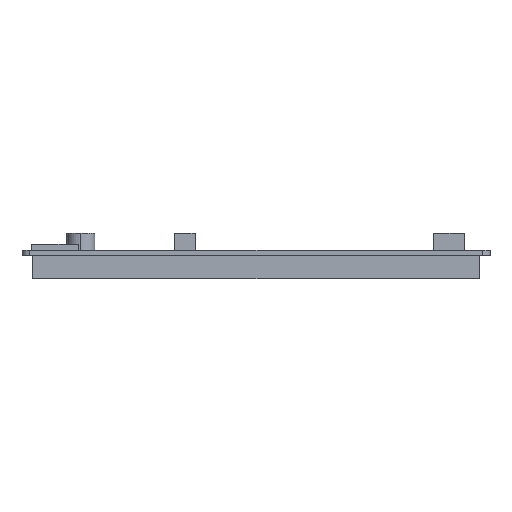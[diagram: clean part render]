
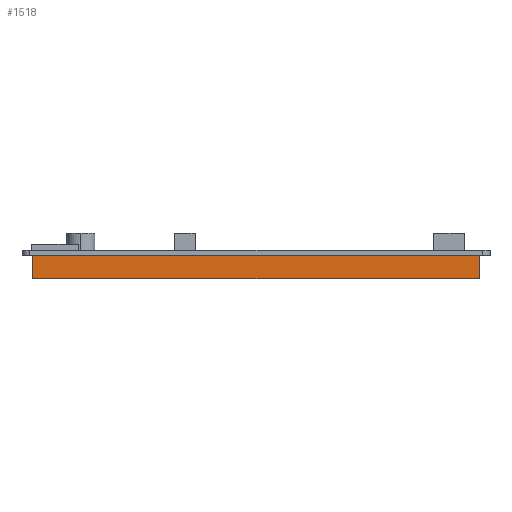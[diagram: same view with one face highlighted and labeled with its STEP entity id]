
A CAD part, left-side view. The second image highlights one B-rep face of the part: STEP entity #1518.
In plain terms, the highlighted planar face has unit normal (-1, 0, 0).
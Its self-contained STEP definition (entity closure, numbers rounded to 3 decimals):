
#321=DIRECTION('',(0.,1.,0.));
#322=VECTOR('',#321,67.089);
#323=CARTESIAN_POINT('',(-92.056,-71.,-1.6));
#324=LINE('',#323,#322);
#339=DIRECTION('',(0.,1.,0.));
#340=VECTOR('',#339,67.343);
#341=CARTESIAN_POINT('',(-92.056,3.657,-1.6));
#342=LINE('',#341,#340);
#479=DIRECTION('',(0.,0.,-1.));
#480=VECTOR('',#479,7.5);
#481=CARTESIAN_POINT('',(-92.056,-71.,-1.6));
#482=LINE('',#481,#480);
#491=DIRECTION('',(0.,0.,-1.));
#492=VECTOR('',#491,7.5);
#493=CARTESIAN_POINT('',(-92.056,71.,-1.6));
#494=LINE('',#493,#492);
#495=DIRECTION('',(0.,1.,0.));
#496=VECTOR('',#495,142.);
#497=CARTESIAN_POINT('',(-92.056,-71.,-9.1));
#498=LINE('',#497,#496);
#563=DIRECTION('',(0.,1.,0.));
#564=VECTOR('',#563,7.568);
#565=CARTESIAN_POINT('',(-92.056,-3.911,-1.6));
#566=LINE('',#565,#564);
#1003=CARTESIAN_POINT('',(-92.056,-71.,-9.1));
#1004=CARTESIAN_POINT('',(-92.056,71.,-9.1));
#1005=VERTEX_POINT('',#1003);
#1006=VERTEX_POINT('',#1004);
#1011=CARTESIAN_POINT('',(-92.056,-71.,-1.6));
#1012=CARTESIAN_POINT('',(-92.056,-3.911,-1.6));
#1013=VERTEX_POINT('',#1011);
#1014=VERTEX_POINT('',#1012);
#1015=CARTESIAN_POINT('',(-92.056,3.657,-1.6));
#1016=CARTESIAN_POINT('',(-92.056,71.,-1.6));
#1017=VERTEX_POINT('',#1015);
#1018=VERTEX_POINT('',#1016);
#1501=CARTESIAN_POINT('',(-92.056,-71.,-1.6));
#1502=DIRECTION('',(-1.,0.,0.));
#1503=DIRECTION('',(0.,1.,0.));
#1504=AXIS2_PLACEMENT_3D('',#1501,#1502,#1503);
#1505=PLANE('',#1504);
#1506=ORIENTED_EDGE('',*,*,#1222,.F.);
#1508=ORIENTED_EDGE('',*,*,#1507,.T.);
#1510=ORIENTED_EDGE('',*,*,#1509,.T.);
#1512=ORIENTED_EDGE('',*,*,#1511,.F.);
#1513=ORIENTED_EDGE('',*,*,#1230,.F.);
#1515=ORIENTED_EDGE('',*,*,#1514,.F.);
#1516=EDGE_LOOP('',(#1506,#1508,#1510,#1512,#1513,#1515));
#1517=FACE_OUTER_BOUND('',#1516,.F.);
#1222=EDGE_CURVE('',#1013,#1014,#324,.T.);
#1230=EDGE_CURVE('',#1017,#1018,#342,.T.);
#1507=EDGE_CURVE('',#1013,#1005,#482,.T.);
#1509=EDGE_CURVE('',#1005,#1006,#498,.T.);
#1511=EDGE_CURVE('',#1018,#1006,#494,.T.);
#1514=EDGE_CURVE('',#1014,#1017,#566,.T.);
#1518=ADVANCED_FACE('',(#1517),#1505,.T.);
